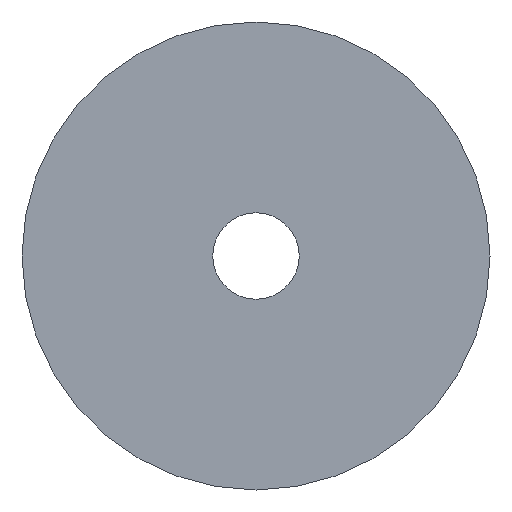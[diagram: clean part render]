
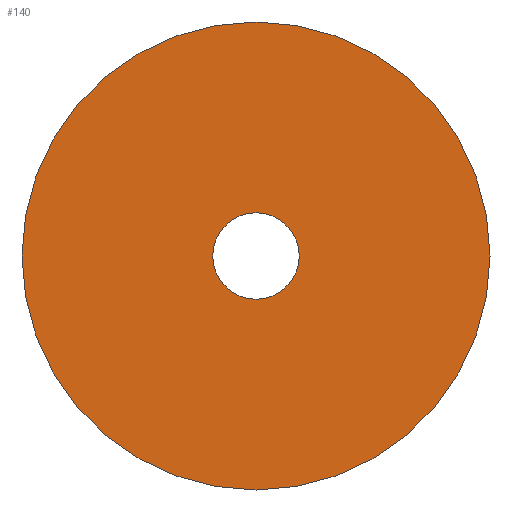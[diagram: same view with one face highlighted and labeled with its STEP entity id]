
A CAD part, left-side view. The second image highlights one B-rep face of the part: STEP entity #140.
In plain terms, the highlighted planar face has unit normal (-1, 0, 0).
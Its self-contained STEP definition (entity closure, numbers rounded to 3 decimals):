
#31 = CYLINDRICAL_SURFACE('',#32,23.);
#32 = AXIS2_PLACEMENT_3D('',#33,#34,#35);
#33 = CARTESIAN_POINT('',(-115.,0.,-365.));
#34 = DIRECTION('',(1.,0.,0.));
#35 = DIRECTION('',(-0.,0.,1.));
#56 = VERTEX_POINT('',#57);
#57 = CARTESIAN_POINT('',(-115.,0.,-342.));
#78 = EDGE_CURVE('',#56,#56,#79,.T.);
#79 = SURFACE_CURVE('',#80,(#85,#92),.PCURVE_S1.);
#80 = CIRCLE('',#81,23.);
#81 = AXIS2_PLACEMENT_3D('',#82,#83,#84);
#82 = CARTESIAN_POINT('',(-115.,0.,-365.));
#83 = DIRECTION('',(1.,0.,0.));
#84 = DIRECTION('',(-0.,0.,1.));
#85 = PCURVE('',#31,#86);
#86 = DEFINITIONAL_REPRESENTATION('',(#87),#91);
#87 = LINE('',#88,#89);
#88 = CARTESIAN_POINT('',(0.,0.));
#89 = VECTOR('',#90,1.);
#90 = DIRECTION('',(1.,0.));
#91 = ( GEOMETRIC_REPRESENTATION_CONTEXT(2) 
PARAMETRIC_REPRESENTATION_CONTEXT() REPRESENTATION_CONTEXT('2D SPACE',''
  ) );
#92 = PCURVE('',#93,#98);
#93 = PLANE('',#94);
#94 = AXIS2_PLACEMENT_3D('',#95,#96,#97);
#95 = CARTESIAN_POINT('',(-115.,0.,-365.));
#96 = DIRECTION('',(1.,0.,0.));
#97 = DIRECTION('',(-0.,0.,1.));
#98 = DEFINITIONAL_REPRESENTATION('',(#99),#103);
#99 = CIRCLE('',#100,23.);
#100 = AXIS2_PLACEMENT_2D('',#101,#102);
#101 = CARTESIAN_POINT('',(0.,0.));
#102 = DIRECTION('',(1.,0.));
#103 = ( GEOMETRIC_REPRESENTATION_CONTEXT(2) 
PARAMETRIC_REPRESENTATION_CONTEXT() REPRESENTATION_CONTEXT('2D SPACE',''
  ) );
#129 = CYLINDRICAL_SURFACE('',#130,4.25);
#130 = AXIS2_PLACEMENT_3D('',#131,#132,#133);
#131 = CARTESIAN_POINT('',(-116.,0.,-365.));
#132 = DIRECTION('',(1.,0.,0.));
#133 = DIRECTION('',(-0.,0.,1.));
#140 = ADVANCED_FACE('',(#141,#144),#93,.F.);
#141 = FACE_BOUND('',#142,.F.);
#142 = EDGE_LOOP('',(#143));
#143 = ORIENTED_EDGE('',*,*,#78,.T.);
#144 = FACE_BOUND('',#145,.F.);
#145 = EDGE_LOOP('',(#146));
#146 = ORIENTED_EDGE('',*,*,#147,.F.);
#147 = EDGE_CURVE('',#148,#148,#150,.T.);
#148 = VERTEX_POINT('',#149);
#149 = CARTESIAN_POINT('',(-115.,0.,-360.75));
#150 = SURFACE_CURVE('',#151,(#156,#163),.PCURVE_S1.);
#151 = CIRCLE('',#152,4.25);
#152 = AXIS2_PLACEMENT_3D('',#153,#154,#155);
#153 = CARTESIAN_POINT('',(-115.,0.,-365.));
#154 = DIRECTION('',(1.,0.,0.));
#155 = DIRECTION('',(-0.,0.,1.));
#156 = PCURVE('',#93,#157);
#157 = DEFINITIONAL_REPRESENTATION('',(#158),#162);
#158 = CIRCLE('',#159,4.25);
#159 = AXIS2_PLACEMENT_2D('',#160,#161);
#160 = CARTESIAN_POINT('',(0.,0.));
#161 = DIRECTION('',(1.,0.));
#162 = ( GEOMETRIC_REPRESENTATION_CONTEXT(2) 
PARAMETRIC_REPRESENTATION_CONTEXT() REPRESENTATION_CONTEXT('2D SPACE',''
  ) );
#163 = PCURVE('',#129,#164);
#164 = DEFINITIONAL_REPRESENTATION('',(#165),#169);
#165 = LINE('',#166,#167);
#166 = CARTESIAN_POINT('',(0.,1.));
#167 = VECTOR('',#168,1.);
#168 = DIRECTION('',(1.,0.));
#169 = ( GEOMETRIC_REPRESENTATION_CONTEXT(2) 
PARAMETRIC_REPRESENTATION_CONTEXT() REPRESENTATION_CONTEXT('2D SPACE',''
  ) );
